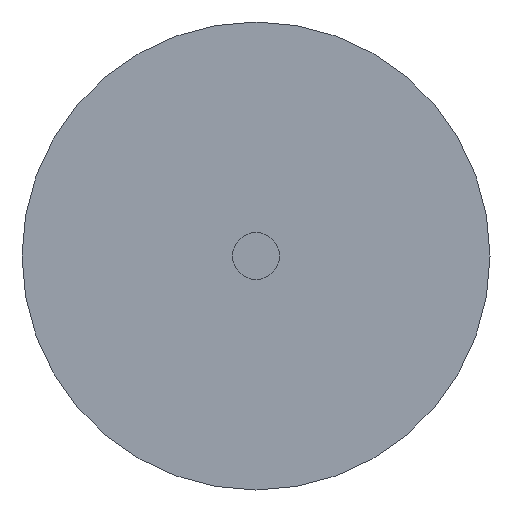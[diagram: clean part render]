
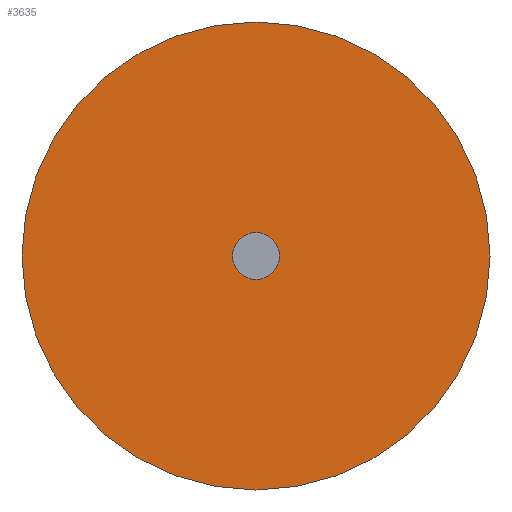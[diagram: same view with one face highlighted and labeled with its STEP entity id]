
A CAD part, front view. The second image highlights one B-rep face of the part: STEP entity #3635.
In plain terms, the highlighted planar face has unit normal (0, -1, 0).
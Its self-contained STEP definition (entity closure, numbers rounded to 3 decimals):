
#2723=CARTESIAN_POINT('',(50.0,-15.5,0.0));
#2724=VERTEX_POINT('',#2723);
#2740=CARTESIAN_POINT('',(-50.0,-15.5,0.));
#2741=VERTEX_POINT('',#2740);
#2748=CARTESIAN_POINT('',(0.0,-15.5,0.0));
#2749=DIRECTION('',(0.0,-1.0,0.0));
#2750=DIRECTION('',(1.0,0.0,0.0));
#2751=AXIS2_PLACEMENT_3D('',#2748,#2749,#2750);
#2752=CIRCLE('',#2751,50.0);
#2753=EDGE_CURVE('',#2724,#2741,#2752,.T.);
#3218=CARTESIAN_POINT('',(5.0,-15.5,0.0));
#3219=VERTEX_POINT('',#3218);
#3244=CARTESIAN_POINT('',(-5.0,-15.5,0.));
#3245=VERTEX_POINT('',#3244);
#3252=CARTESIAN_POINT('',(0.0,-15.5,0.0));
#3253=DIRECTION('',(0.0,-1.0,0.0));
#3254=DIRECTION('',(1.0,0.0,0.0));
#3255=AXIS2_PLACEMENT_3D('',#3252,#3253,#3254);
#3256=CIRCLE('',#3255,5.0);
#3257=EDGE_CURVE('',#3245,#3219,#3256,.T.);
#3336=CARTESIAN_POINT('',(0.0,-15.5,0.0));
#3337=DIRECTION('',(0.0,-1.0,0.0));
#3338=DIRECTION('',(1.0,0.0,0.0));
#3339=AXIS2_PLACEMENT_3D('',#3336,#3337,#3338);
#3340=CIRCLE('',#3339,5.0);
#3341=EDGE_CURVE('',#3219,#3245,#3340,.T.);
#3610=CARTESIAN_POINT('',(0.0,-15.5,0.0));
#3611=DIRECTION('',(0.0,-1.0,0.0));
#3612=DIRECTION('',(1.0,0.0,0.0));
#3613=AXIS2_PLACEMENT_3D('',#3610,#3611,#3612);
#3614=CIRCLE('',#3613,50.0);
#3615=EDGE_CURVE('',#2741,#2724,#3614,.T.);
#3622=CARTESIAN_POINT('',(27.5,-15.5,0.0));
#3623=DIRECTION('',(0.0,-1.0,0.0));
#3624=DIRECTION('',(0.0,0.0,-1.0));
#3625=AXIS2_PLACEMENT_3D('',#3622,#3623,#3624);
#3626=PLANE('',#3625);
#3627=ORIENTED_EDGE('',*,*,#2753,.T.);
#3628=ORIENTED_EDGE('',*,*,#3615,.T.);
#3629=EDGE_LOOP('',(#3627,#3628));
#3630=FACE_OUTER_BOUND('',#3629,.T.);
#3631=ORIENTED_EDGE('',*,*,#3341,.F.);
#3632=ORIENTED_EDGE('',*,*,#3257,.F.);
#3633=EDGE_LOOP('',(#3631,#3632));
#3634=FACE_BOUND('',#3633,.T.);
#3635=ADVANCED_FACE('',(#3630,#3634),#3626,.T.);
